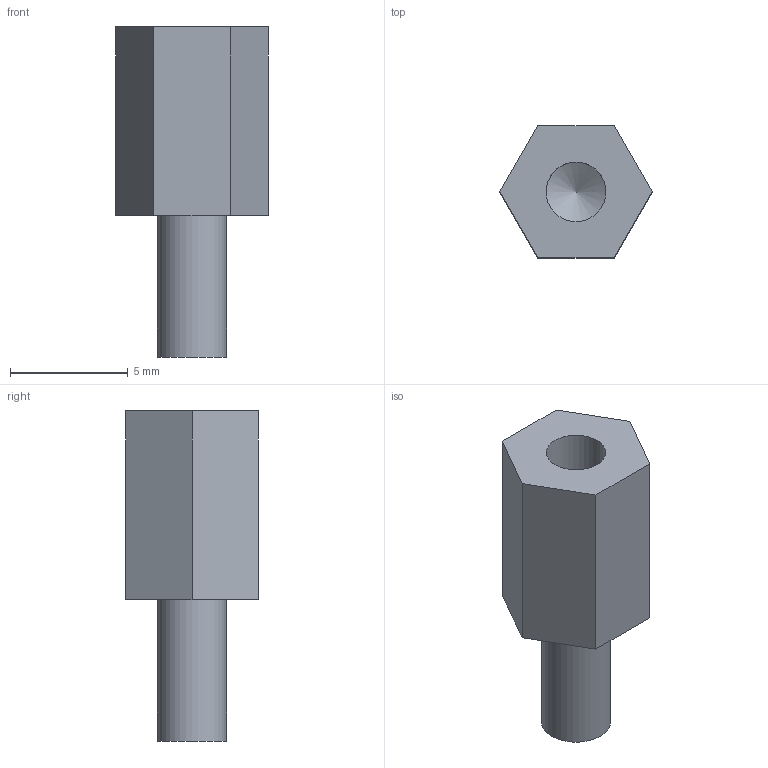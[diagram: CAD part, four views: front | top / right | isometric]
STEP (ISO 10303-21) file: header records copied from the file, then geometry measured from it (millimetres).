
FILE_DESCRIPTION(/* description */ (''),/* implementation_level */ '2;1');
FILE_NAME(/* name */ 'C:/Users/User/Desktop/hex spacer M3x8 v1.step',/* time_stamp */ '2020-09-21T13:37:15+08:00',/* author */ (''),/* organization */ (''),/* preprocessor_version */ 'ST-DEVELOPER v18.1',/* originating_system */ 'Autodesk Translation Framework v9.3.0.1241',/* authorisation */ '');
FILE_SCHEMA (('AUTOMOTIVE_DESIGN { 1 0 10303 214 3 1 1 }'));
Length unit declared in the file: millimetre
Products named in the file (2): hex spacer M3x8; hex spacer
Assembly tree (1 placements, depth 2):
  hex spacer M3x8
    hex spacer
Bounding box: 6.47 x 5.6 x 14 mm (x, y, z)
Volume: 226.2 mm3; surface area: 313.2 mm2
Topology: 1 solids, 1 shells, 12 faces, 26 edges, 17 vertices
Faces by surface type: plane 9, cylinder 2, cone 1
Full cylindrical faces by diameter (mm): 2.529 x1, 2.927 x1
Entity records: 381 total; most frequent: DIRECTION 59, CARTESIAN_POINT 57, ORIENTED_EDGE 50, EDGE_CURVE 25, LINE 21, VECTOR 21, AXIS2_PLACEMENT_3D 19, VERTEX_POINT 17
